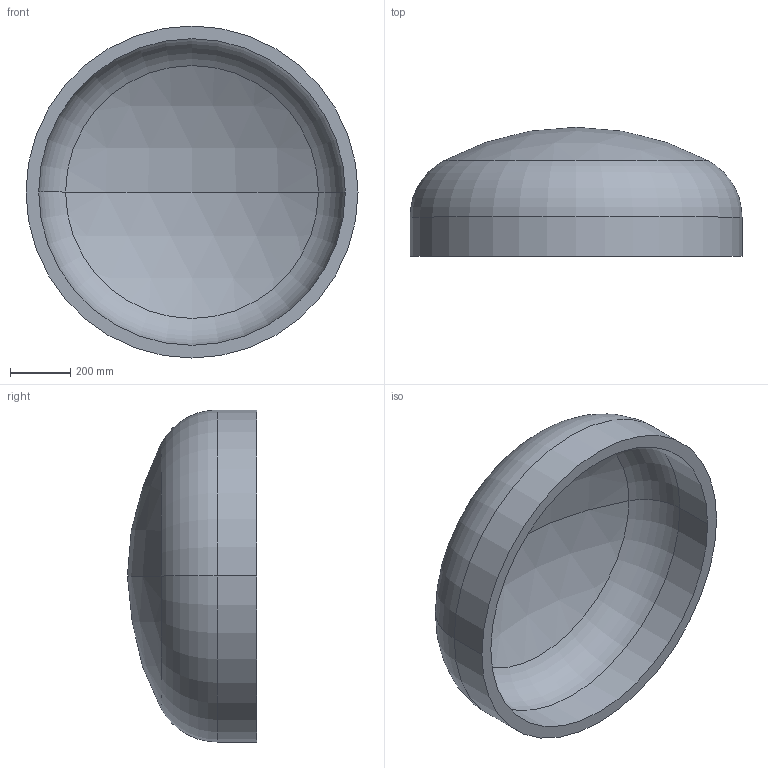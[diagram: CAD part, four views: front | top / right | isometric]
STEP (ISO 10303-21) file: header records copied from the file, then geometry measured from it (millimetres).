
FILE_DESCRIPTION (( 'STEP AP203' ), '1' );
FILE_NAME ('DIN 28013 Korbbogenform_-_Boden DIN 28013 - 1100 x 130 - I - s=42.step', '2016-07-01T09:08:02', ( '' ), ( '' ), 'SwSTEP 2.0', 'SolidWorks 2013', '' );
FILE_SCHEMA (( 'CONFIG_CONTROL_DESIGN' ));
Length unit declared in the file: millimetre
Products named in the file (1): DIN 28013 Korbbogenform_-_Boden DIN 28013 - 1100 x 130 - I - s=42
Bounding box: 1100 x 427.62 x 1100 mm (x, y, z)
Volume: 70793757.7 mm3; surface area: 3514424.8 mm2
Topology: 1 solids, 1 shells, 13 faces, 24 edges, 14 vertices
Faces by surface type: torus 4, cylinder 4, sphere 4, plane 1
Entity records: 407 total; most frequent: DIRECTION 72, CARTESIAN_POINT 52, ORIENTED_EDGE 48, AXIS2_PLACEMENT_3D 34, EDGE_CURVE 24, CIRCLE 20, EDGE_LOOP 14, VERTEX_POINT 14
